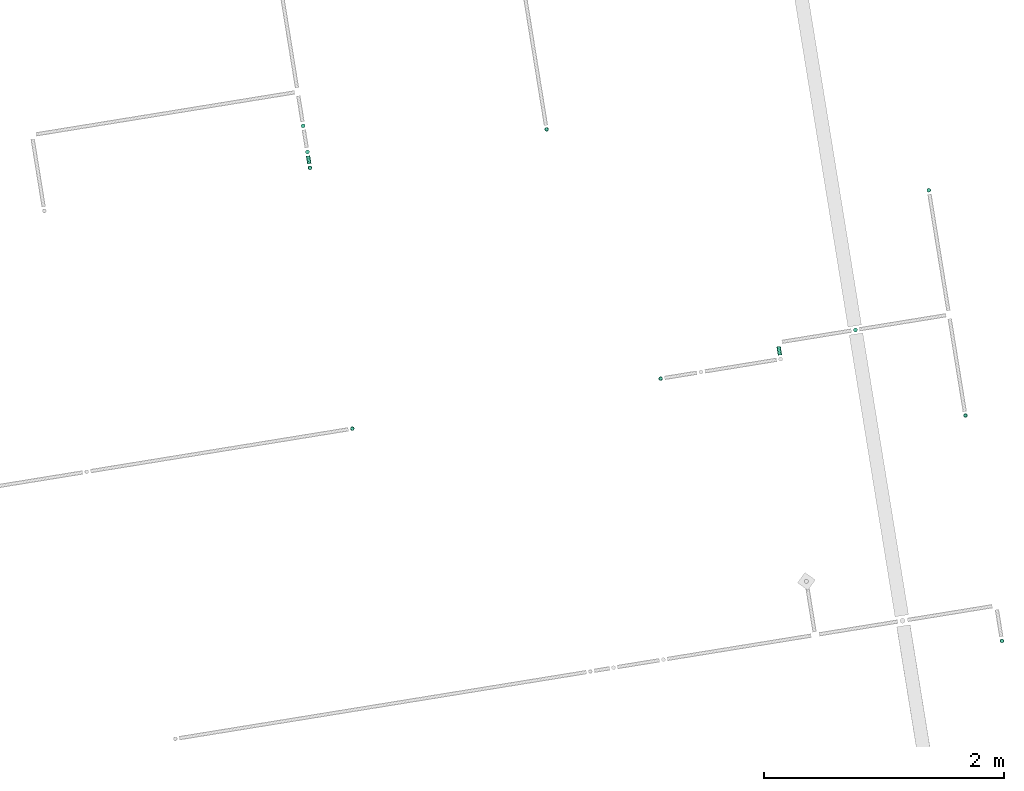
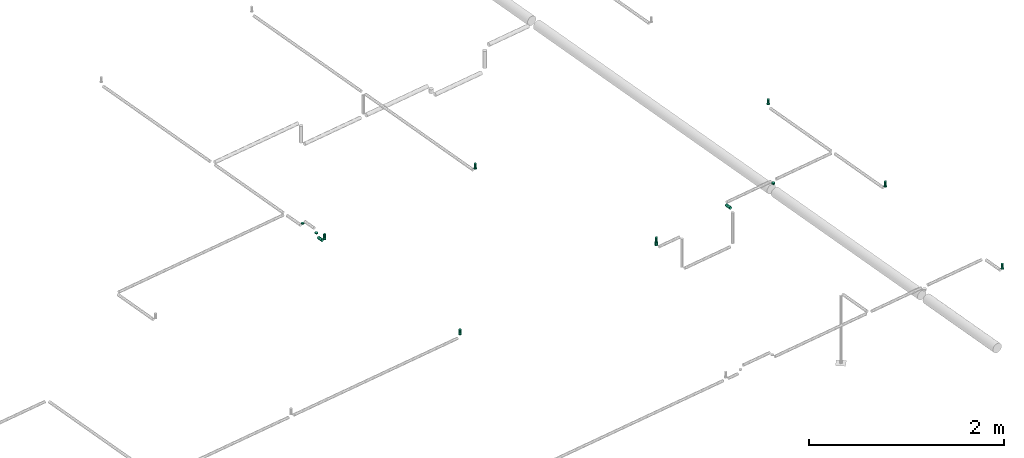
# One storey, part 8 of 11: 12 flow segments, 7 flow terminals.
"""IFC2X3 building model written with IfcOpenShell, lengths in millimetres."""

from ifc_helpers import new_model, entity, si_unit, converted_unit, derived_unit, direction, frame, frame_2d, origin, origin_with_axes, origin_2d_with_axis, place, context, subcontext, project, spatial, circle, extrude, source, transform, mapped, material, type_object, element, save


model = new_model("IFC2X3")

# Units and contexts
model_context = context("Model", 3, precision=0.01, world=origin(), true_north=direction((6.12323399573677e-17, 1.0)))
plan_context = context("Plan", 3, precision=1e-05, world=origin_with_axes())
body_context = subcontext(model_context, "Body", "Model", "MODEL_VIEW")
ifc_project = project(units=[converted_unit("PLANEANGLEUNIT", "DEGREE", entity("IfcPositiveLengthMeasure", 0.0174532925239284), si_unit("PLANEANGLEUNIT", "RADIAN"), dimensions=[0, 0, 0, 0, 0, 0, 0]), si_unit("AREAUNIT", "SQUARE_METRE"), si_unit("LENGTHUNIT", "METRE", prefix="MILLI"), si_unit("MASSUNIT", "GRAM", prefix="KILO"), si_unit("POWERUNIT", "WATT"), si_unit("PRESSUREUNIT", "PASCAL", prefix="KILO"), si_unit("FORCEUNIT", "NEWTON", prefix="KILO"), si_unit("ELECTRICVOLTAGEUNIT", "VOLT"), si_unit("ELECTRICCURRENTUNIT", "AMPERE"), si_unit("THERMODYNAMICTEMPERATUREUNIT", "DEGREE_CELSIUS"), si_unit("TIMEUNIT", "SECOND"), si_unit("VOLUMEUNIT", "CUBIC_METRE"), derived_unit("LINEARVELOCITYUNIT", [(si_unit("LENGTHUNIT", "METRE"), 1), (si_unit("TIMEUNIT", "SECOND"), -1)]), derived_unit("VOLUMETRICFLOWRATEUNIT", [(si_unit("VOLUMEUNIT", "CUBIC_METRE"), 1), (si_unit("TIMEUNIT", "SECOND"), -1)]), derived_unit("THERMALTRANSMITTANCEUNIT", [(si_unit("POWERUNIT", "WATT"), 1), (si_unit("THERMODYNAMICTEMPERATUREUNIT", "KELVIN"), -1), (si_unit("AREAUNIT", "SQUARE_METRE"), -1)]), derived_unit("SOUNDPRESSUREUNIT", [(si_unit("PRESSUREUNIT", "PASCAL"), 1)])], contexts=[model_context, plan_context])

# Site, building, storey
site_placement = place(None, frame((-0.00071070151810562, 0.00438415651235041, 0.0), z_axis=(0.0, 0.0, 1.0), x_axis=(-0.160236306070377, 0.987078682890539, 0.0)))
site = spatial("IfcSite", under=ifc_project, at=site_placement, Name="Default", CompositionType="ELEMENT")
building_placement = place(site_placement, origin_with_axes())
building = spatial("IfcBuilding", under=site, at=building_placement, CompositionType="ELEMENT")
storey_placement = place(building_placement, frame((0.0, 0.0, 50999.9999999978), z_axis=(0.0, 0.0, 1.0), x_axis=(1.0, 0.0, 0.0)))
storey = spatial("IfcBuildingStorey", under=building, at=storey_placement, Name="Nivå D", CompositionType="ELEMENT", Elevation=50999.9999999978)

# Flow terminals
ifc_material = material(Name="<Unnamed>")
fire_suppression_terminal_type = type_object("IfcFireSuppressionTerminalType", Name="UZ002T:Dyse/Spreder - UZ002T", PredefinedType="NOTDEFINED", material=ifc_material)
shared_shape = source(origin(), body_context, "Body", "SweptSolid", [
    extrude(circle(Radius=14.0, at=frame_2d((0.0, -2.26176240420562e-14), x_axis=(1.0, 0.0))), origin(), (0.0, 0.0, 1.0), 58.9999999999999),
])
for number, where, z_axis, x_axis in (
    (1, (773367.619644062, -603732.480498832, 3470.0), (0.0, 0.0, 1.0), (1.0, 0.0, 0.0)),
    (2, (771467.619644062, -603732.480498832, 3470.0), (0.0, 0.0, 1.0), (1.0, 0.0, 0.0)),
    (3, (769567.619644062, -603732.480498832, 3470.0), (0.0, 0.0, 1.0), (1.0, 0.0, 0.0)),
    (4, (772177.619644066, -598677.480498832, 3470.0), (0.0, 0.0, 1.0), (1.0, 0.0, 0.0)),
    (5, (774377.619644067, -600672.905078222, 3470.0), (0.0, 0.0, 1.0), (1.0, 0.0, 0.0)),
    (6, (774377.619644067, -598677.480498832, 3470.0), (0.0, 0.0, 1.0), (1.0, 0.0, 0.0)),
    (7, (772177.619644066, -601277.480498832, 3470.0), (0.0, 0.0, 1.0), (1.0, 0.0, 0.0)),
):
    element("IfcFlowTerminal", number, at=place(storey_placement, frame(where, z_axis=z_axis, x_axis=x_axis)), inside=storey, type_object=fire_suppression_terminal_type, material=ifc_material, Name="UZ002T:Dyse/Spreder - UZ002T", ObjectType="UZ002T:Dyse/Spreder - UZ002T", context=body_context, shape_type="MappedRepresentation", body=[
        mapped(shared_shape, transform((0.0, 0.0, 0.0), scale=1.0)),
    ])

# Flow segments
pipe_segment_type = type_object("IfcPipeSegmentType", Name="Pipe Types:Stålrør normaltykke", PredefinedType="NOTDEFINED")
flow_segment_1_placement = place(storey_placement, origin_with_axes())
element("IfcFlowSegment", 8, at=flow_segment_1_placement, inside=storey, type_object=pipe_segment_type, Name="Pipe Types:Stålrør normaltykke", ObjectType="Pipe Types:Stålrør normaltykke", context=body_context, shape_type="SweptSolid", body=[
    extrude(circle(Radius=16.8500004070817, at=frame_2d((4.46474788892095e-18, 0.0), x_axis=(1.0, 0.0))), frame((773367.619648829, -603732.480498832, 3463.80000372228), z_axis=(-5.15385009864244e-07, 0.0, 1.0), x_axis=(-1.0, 0.0, -5.15385009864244e-07)), (0.0, 0.0, 1.0), 9.24799627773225),
])
flow_segment_2_placement = place(storey_placement, origin_with_axes())
element("IfcFlowSegment", 9, at=flow_segment_2_placement, inside=storey, type_object=pipe_segment_type, Name="Pipe Types:Stålrør normaltykke", ObjectType="Pipe Types:Stålrør normaltykke", context=body_context, shape_type="SweptSolid", body=[
    extrude(circle(Radius=16.8500004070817, at=origin_2d_with_axis()), frame((771467.619648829, -603732.480498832, 3463.79999627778), z_axis=(-5.15384594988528e-07, 0.0, 1.0), x_axis=(-1.0, 0.0, -5.15384594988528e-07)), (0.0, 0.0, 1.0), 9.24800372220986),
])
flow_segment_3_placement = place(storey_placement, origin_with_axes())
element("IfcFlowSegment", 10, at=flow_segment_3_placement, inside=storey, type_object=pipe_segment_type, Name="Pipe Types:Stålrør normaltykke", ObjectType="Pipe Types:Stålrør normaltykke", context=body_context, shape_type="SweptSolid", body=[
    extrude(circle(Radius=16.8500004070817, at=origin_2d_with_axis()), frame((769567.619648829, -603732.480498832, 3463.7999825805), z_axis=(-5.15368843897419e-07, 0.0, 1.0), x_axis=(-1.0, 0.0, -5.15368843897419e-07)), (0.0, 0.0, 1.0), 9.24801741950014),
])
flow_segment_4_placement = place(storey_placement, origin_with_axes())
element("IfcFlowSegment", 11, at=flow_segment_4_placement, inside=storey, type_object=pipe_segment_type, Name="Pipe Types:Stålrør normaltykke", ObjectType="Pipe Types:Stålrør normaltykke", context=body_context, shape_type="SweptSolid", body=[
    extrude(circle(Radius=16.8500004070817, at=origin_2d_with_axis()), frame((772177.619648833, -598677.480498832, 3463.79938722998), z_axis=(-5.15350655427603e-07, 0.0, 1.0), x_axis=(-1.0, 0.0, -5.15350655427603e-07)), (0.0, 0.0, 1.0), 9.24861277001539),
])
flow_segment_5_placement = place(storey_placement, origin_with_axes())
element("IfcFlowSegment", 12, at=flow_segment_5_placement, inside=storey, type_object=pipe_segment_type, Name="Pipe Types:Stålrør normaltykke", ObjectType="Pipe Types:Stålrør normaltykke", context=body_context, shape_type="SweptSolid", body=[
    extrude(circle(Radius=16.8500004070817, at=origin_2d_with_axis()), frame((774377.619648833, -600672.905078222, 3463.79999627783), z_axis=(-5.15369607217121e-07, 0.0, 1.0), x_axis=(-1.0, 0.0, -5.15369607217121e-07)), (0.0, 0.0, 1.0), 9.24800372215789),
])
flow_segment_6_placement = place(storey_placement, origin_with_axes())
element("IfcFlowSegment", 13, at=flow_segment_6_placement, inside=storey, type_object=pipe_segment_type, Name="Pipe Types:Stålrør normaltykke", ObjectType="Pipe Types:Stålrør normaltykke", context=body_context, shape_type="SweptSolid", body=[
    extrude(circle(Radius=16.8500004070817, at=origin_2d_with_axis()), frame((774377.619648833, -598677.480498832, 3463.79999627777), z_axis=(-5.15369607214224e-07, 0.0, 1.0), x_axis=(-1.0, 0.0, -5.15369607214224e-07)), (0.0, 0.0, 1.0), 9.24800372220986),
])
flow_segment_7_placement = place(storey_placement, origin_with_axes())
element("IfcFlowSegment", 14, at=flow_segment_7_placement, inside=storey, type_object=pipe_segment_type, Name="Pipe Types:Stålrør normaltykke", ObjectType="Pipe Types:Stålrør normaltykke", context=body_context, shape_type="SweptSolid", body=[
    extrude(circle(Radius=16.8500004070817, at=origin_2d_with_axis()), frame((772177.619648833, -601277.480498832, 3429.76798004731), z_axis=(-1.10123332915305e-07, 0.0, 1.0), x_axis=(-1.0, 0.0, -1.10123332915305e-07)), (0.0, 0.0, 1.0), 43.2800199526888),
])
flow_segment_8_placement = place(storey_placement, origin_with_axes())
element("IfcFlowSegment", 15, at=flow_segment_8_placement, inside=storey, type_object=pipe_segment_type, Name="Pipe Types:Stålrør normaltykke", ObjectType="Pipe Types:Stålrør normaltykke", context=body_context, shape_type="SweptSolid", body=[
    extrude(circle(Radius=16.8500004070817, at=origin_2d_with_axis()), frame((774411.419648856, -598677.480498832, 3430.0), z_axis=(1.0, 0.0, 0.0), x_axis=(0.0, -1.0, 0.0)), (0.0, 0.0, 1.0), 66.2000000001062),
])
flow_segment_9_placement = place(storey_placement, origin_with_axes())
element("IfcFlowSegment", 16, at=flow_segment_9_placement, inside=storey, type_object=pipe_segment_type, Name="Pipe Types:Stålrør normaltykke", ObjectType="Pipe Types:Stålrør normaltykke", context=body_context, shape_type="SweptSolid", body=[
    extrude(circle(Radius=16.8500004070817, at=origin_2d_with_axis()), frame((774511.419648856, -598677.480498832, 3463.8), z_axis=(0.0, 0.0, 1.0), x_axis=(-1.0, 0.0, 0.0)), (0.0, 0.0, 1.0), 12.4000000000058),
])
flow_segment_10_placement = place(storey_placement, origin_with_axes())
element("IfcFlowSegment", 17, at=flow_segment_10_placement, inside=storey, type_object=pipe_segment_type, Name="Pipe Types:Stålrør normaltykke", ObjectType="Pipe Types:Stålrør normaltykke", context=body_context, shape_type="SweptSolid", body=[
    extrude(circle(Radius=16.8500004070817, at=origin_2d_with_axis()), frame((774731.419648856, -598677.480498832, 3463.8)), (0.0, 0.0, 1.0), 12.4000000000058),
])
flow_segment_11_placement = place(storey_placement, origin_with_axes())
element("IfcFlowSegment", 18, at=flow_segment_11_placement, inside=storey, type_object=pipe_segment_type, Name="Pipe Types:Stålrør normaltykke", ObjectType="Pipe Types:Stålrør normaltykke", context=body_context, shape_type="SweptSolid", body=[
    extrude(circle(Radius=16.8500004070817, at=origin_2d_with_axis()), frame((772317.619648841, -602942.60820948, 3385.79999999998), z_axis=(0.0, 0.0, 1.0), x_axis=(-1.0, 0.0, 0.0)), (0.0, 0.0, 1.0), 18.8500000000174),
])
flow_segment_12_placement = place(storey_placement, origin_with_axes())
element("IfcFlowSegment", 19, at=flow_segment_12_placement, inside=storey, type_object=pipe_segment_type, Name="Pipe Types:Stålrør normaltykke", ObjectType="Pipe Types:Stålrør normaltykke", context=body_context, shape_type="SweptSolid", body=[
    extrude(circle(Radius=16.8500004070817, at=frame_2d((0.0, 8.66293703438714e-12), x_axis=(1.0, 0.0))), frame((772211.419652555, -602289.568788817, 3430.0), z_axis=(1.0, 0.0, 0.0), x_axis=(0.0, 1.0, 0.0)), (0.0, 0.0, 1.0), 72.399996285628),
])

save(model, "model.ifc")
